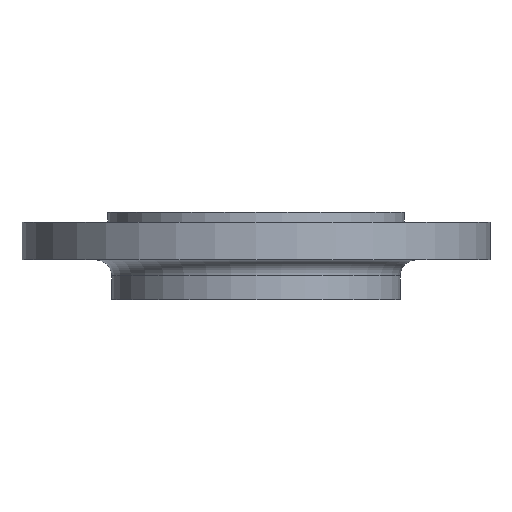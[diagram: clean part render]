
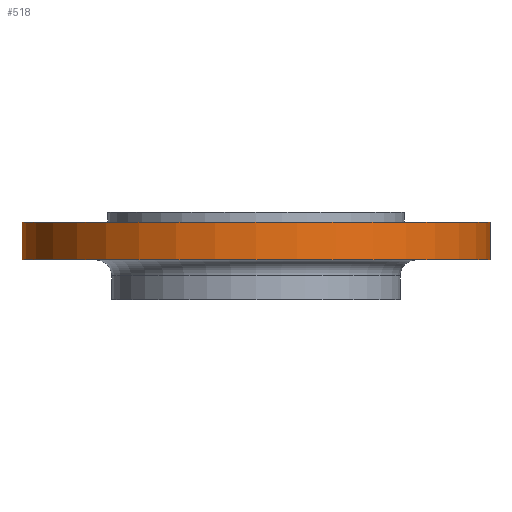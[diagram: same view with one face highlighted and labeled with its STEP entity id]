
A CAD part, front view. The second image highlights one B-rep face of the part: STEP entity #518.
In plain terms, the highlighted cylindrical face has radius 117.5 mm (diameter 235 mm), a partial arc.
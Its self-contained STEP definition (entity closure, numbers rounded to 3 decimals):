
#87 = EDGE_CURVE ( 'NONE', #579, #934, #233, .T. ) ;
#99 = CARTESIAN_POINT ( 'NONE',  ( -117.5, 0., -5. ) ) ;
#116 = CARTESIAN_POINT ( 'NONE',  ( 117.5, 0., -24. ) ) ;
#125 = CARTESIAN_POINT ( 'NONE',  ( 117.5, 0., -5. ) ) ;
#233 = CIRCLE ( 'NONE', #1000, 117.5 ) ;
#266 = VECTOR ( 'NONE', #287, 1000. ) ;
#275 = DIRECTION ( 'NONE',  ( -1., 0., 0. ) ) ;
#276 = DIRECTION ( 'NONE',  ( 0., 0., -1. ) ) ;
#277 = CARTESIAN_POINT ( 'NONE',  ( 0., 0., -5. ) ) ;
#285 = LINE ( 'NONE', #286, #266 ) ;
#286 = CARTESIAN_POINT ( 'NONE',  ( 117.5, 0., -75. ) ) ;
#287 = DIRECTION ( 'NONE',  ( 0., 0., 1. ) ) ;
#379 = CARTESIAN_POINT ( 'NONE',  ( -117.5, 0., -24. ) ) ;
#426 = DIRECTION ( 'NONE',  ( 0., 0., 1. ) ) ;
#427 = CARTESIAN_POINT ( 'NONE',  ( -117.5, 0., -75. ) ) ;
#428 = LINE ( 'NONE', #427, #855 ) ;
#429 = DIRECTION ( 'NONE',  ( 1., 0., 0. ) ) ;
#430 = DIRECTION ( 'NONE',  ( 0., 0., 1. ) ) ;
#431 = CARTESIAN_POINT ( 'NONE',  ( 0., 0., -75. ) ) ;
#432 = CYLINDRICAL_SURFACE ( 'NONE', #814, 117.5 ) ;
#433 = FACE_OUTER_BOUND ( 'NONE', #927, .T. ) ;
#518 = ADVANCED_FACE ( 'NONE', ( #433 ), #432, .T. ) ;
#524 = EDGE_CURVE ( 'NONE', #579, #963, #428, .T. ) ;
#579 = VERTEX_POINT ( 'NONE', #379 ) ;
#729 = CARTESIAN_POINT ( 'NONE',  ( 0., 0., -24. ) ) ;
#730 = DIRECTION ( 'NONE',  ( 0., 0., 1. ) ) ;
#731 = DIRECTION ( 'NONE',  ( 1., 0., 0. ) ) ;
#762 = EDGE_CURVE ( 'NONE', #934, #924, #285, .T. ) ;
#770 = EDGE_CURVE ( 'NONE', #924, #963, #780, .T. ) ;
#778 = AXIS2_PLACEMENT_3D ( 'NONE', #277, #276, #275 ) ;
#780 = CIRCLE ( 'NONE', #778, 117.5 ) ;
#814 = AXIS2_PLACEMENT_3D ( 'NONE', #431, #430, #429 ) ;
#855 = VECTOR ( 'NONE', #426, 1000. ) ;
#924 = VERTEX_POINT ( 'NONE', #125 ) ;
#927 = EDGE_LOOP ( 'NONE', ( #1043, #1044, #1045, #1046 ) ) ;
#934 = VERTEX_POINT ( 'NONE', #116 ) ;
#963 = VERTEX_POINT ( 'NONE', #99 ) ;
#1000 = AXIS2_PLACEMENT_3D ( 'NONE', #729, #730, #731 ) ;
#1043 = ORIENTED_EDGE ( 'NONE', *, *, #524, .F. ) ;
#1044 = ORIENTED_EDGE ( 'NONE', *, *, #87, .T. ) ;
#1045 = ORIENTED_EDGE ( 'NONE', *, *, #762, .T. ) ;
#1046 = ORIENTED_EDGE ( 'NONE', *, *, #770, .T. ) ;
